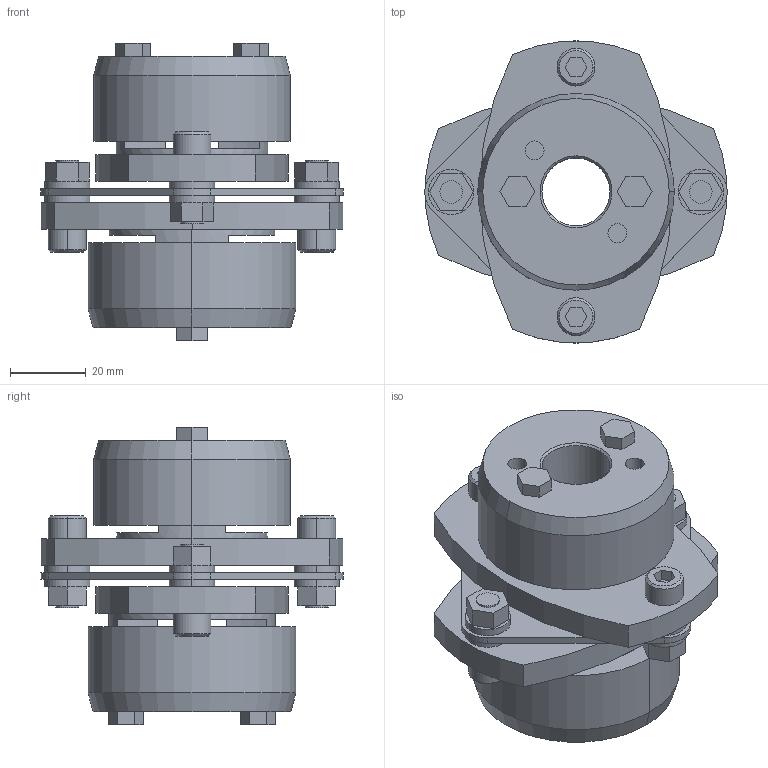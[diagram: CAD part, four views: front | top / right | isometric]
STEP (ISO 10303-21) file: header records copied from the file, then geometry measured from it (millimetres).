
FILE_DESCRIPTION((''),'2;1');
FILE_NAME('LCS-80T7-18×22.stp','2011-09-12T14:57:23',(''),(''),'AutoCAD STEP 2000i','AutoCAD 2000i',', , ');
FILE_SCHEMA(('CONFIG_CONTROL_DESIGN'));
Length unit declared in the file: millimetre
Products named in the file (7): LCS-80T7-17×22; 忣兜1; LC80T7-T022; LC80T7-T019; LC80T7-T017-1; LC80T7-T017; LCS80-ITA
Assembly tree (6 placements, depth 2):
  LCS-80T7-17×22
    忣兜1
    LC80T7-T022
    LC80T7-T019
    LC80T7-T017-1
    LC80T7-T017
    LCS80-ITA
Bounding box: 80 x 79.95 x 78.75 mm (x, y, z)
Volume: 144509.8 mm3; surface area: 41721.4 mm2
Topology: 1 solids, 1 shells, 218 faces, 532 edges, 348 vertices
Faces by surface type: plane 118, cylinder 80, cone 20
Entity records: 6647 total; most frequent: DIRECTION 1178, CARTESIAN_POINT 1105, ORIENTED_EDGE 1064, EDGE_CURVE 532, AXIS2_PLACEMENT_3D 421, VERTEX_POINT 348, VECTOR 336, LINE 336
